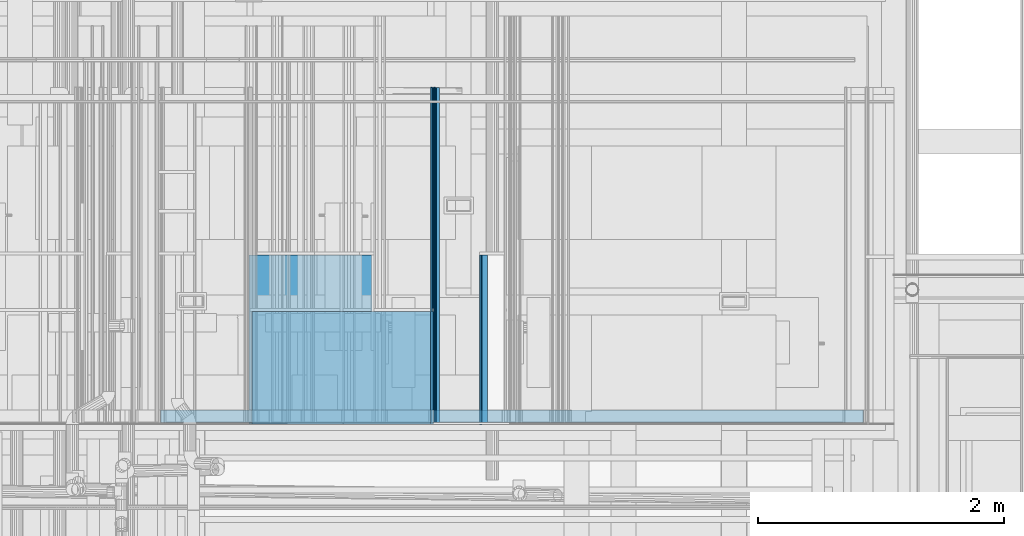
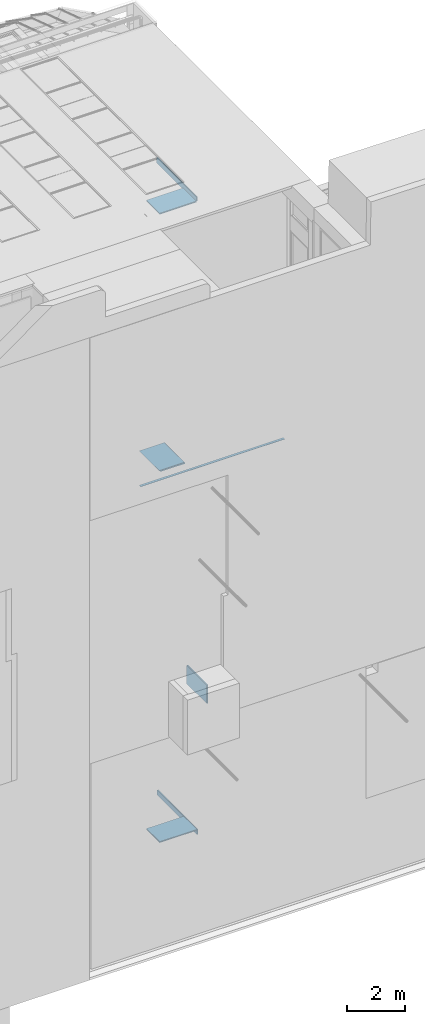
# One storey, part 51 of 583: 13 building element parts, 7 elements without a shape of their own.
"""IFC2X3 building model written with IfcOpenShell, lengths in metres."""

from ifc_helpers import new_model, entity, si_unit, converted_unit, derived_unit, money_unit, direction, frame, frame_2d, origin_with_axes, place, context, subcontext, project, spatial, polyline, rectangle, outline, extrude, material, type_object, element, aggregate, save


model = new_model("IFC2X3")

# Units and contexts
model_context = context("Model", 3, precision=1e-05, world=origin_with_axes(), true_north=direction((0.0, 1.0)))
body_context = subcontext(model_context, "Body", "Model", "MODEL_VIEW", scale=1.0)
ifc_project = project(units=[si_unit("LENGTHUNIT", "METRE"), si_unit("AREAUNIT", "SQUARE_METRE"), si_unit("VOLUMEUNIT", "CUBIC_METRE"), si_unit("ABSORBEDDOSEUNIT", "GRAY"), si_unit("AMOUNTOFSUBSTANCEUNIT", "MOLE"), si_unit("DOSEEQUIVALENTUNIT", "SIEVERT"), si_unit("ELECTRICCAPACITANCEUNIT", "FARAD"), si_unit("ELECTRICCHARGEUNIT", "COULOMB"), si_unit("ELECTRICCONDUCTANCEUNIT", "SIEMENS"), si_unit("ELECTRICCURRENTUNIT", "AMPERE"), si_unit("ELECTRICRESISTANCEUNIT", "OHM"), si_unit("ELECTRICVOLTAGEUNIT", "VOLT"), si_unit("ENERGYUNIT", "JOULE"), si_unit("FORCEUNIT", "NEWTON"), si_unit("FREQUENCYUNIT", "HERTZ"), si_unit("ILLUMINANCEUNIT", "LUX"), si_unit("INDUCTANCEUNIT", "HENRY"), si_unit("LUMINOUSFLUXUNIT", "LUMEN"), si_unit("LUMINOUSINTENSITYUNIT", "CANDELA"), si_unit("MAGNETICFLUXDENSITYUNIT", "TESLA"), si_unit("MAGNETICFLUXUNIT", "WEBER"), si_unit("MASSUNIT", "GRAM"), converted_unit("PLANEANGLEUNIT", "degree", entity("IfcReal", 0.0174532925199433), si_unit("PLANEANGLEUNIT", "RADIAN"), dimensions=[0, 0, 0, 0, 0, 0, 0]), si_unit("POWERUNIT", "WATT"), si_unit("PRESSUREUNIT", "PASCAL"), si_unit("RADIOACTIVITYUNIT", "BECQUEREL"), si_unit("SOLIDANGLEUNIT", "STERADIAN"), si_unit("THERMODYNAMICTEMPERATUREUNIT", "KELVIN"), si_unit("TIMEUNIT", "SECOND"), derived_unit("ACCELERATIONUNIT", [(si_unit("LENGTHUNIT", "METRE"), 1), (si_unit("TIMEUNIT", "SECOND"), -2)]), derived_unit("ANGULARVELOCITYUNIT", [(converted_unit("PLANEANGLEUNIT", "degree", entity("IfcReal", 0.0174532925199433), si_unit("PLANEANGLEUNIT", "RADIAN"), dimensions=[0, 0, 0, 0, 0, 0, 0]), 1), (si_unit("TIMEUNIT", "SECOND"), -1)]), derived_unit("CURVATUREUNIT", [(converted_unit("PLANEANGLEUNIT", "degree", entity("IfcReal", 0.0174532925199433), si_unit("PLANEANGLEUNIT", "RADIAN"), dimensions=[0, 0, 0, 0, 0, 0, 0]), 1), (si_unit("LENGTHUNIT", "METRE"), -1)]), derived_unit("DYNAMICVISCOSITYUNIT", [(si_unit("PRESSUREUNIT", "PASCAL"), 1), (si_unit("TIMEUNIT", "SECOND"), 1)]), derived_unit("HEATFLUXDENSITYUNIT", [(si_unit("POWERUNIT", "WATT"), 1), (si_unit("LENGTHUNIT", "METRE"), -2)]), derived_unit("HEATINGVALUEUNIT", [(si_unit("ENERGYUNIT", "JOULE"), 1), (si_unit("MASSUNIT", "GRAM"), -1)]), derived_unit("INTEGERCOUNTRATEUNIT", [(si_unit("TIMEUNIT", "SECOND"), -1)]), derived_unit("IONCONCENTRATIONUNIT", [(si_unit("MASSUNIT", "GRAM"), 1), (si_unit("VOLUMEUNIT", "CUBIC_METRE"), -1)]), derived_unit("ISOTHERMALMOISTURECAPACITYUNIT", [(si_unit("VOLUMEUNIT", "CUBIC_METRE"), 1), (si_unit("MASSUNIT", "GRAM"), -1)]), derived_unit("KINEMATICVISCOSITYUNIT", [(si_unit("AREAUNIT", "SQUARE_METRE"), 1), (si_unit("TIMEUNIT", "SECOND"), -1)]), derived_unit("LINEARFORCEUNIT", [(si_unit("FORCEUNIT", "NEWTON"), 1), (si_unit("LENGTHUNIT", "METRE"), -1)]), derived_unit("LINEARMOMENTUNIT", [(si_unit("FORCEUNIT", "NEWTON"), 1), (si_unit("LENGTHUNIT", "METRE"), -1)]), derived_unit("LINEARSTIFFNESSUNIT", [(si_unit("FORCEUNIT", "NEWTON"), 1), (si_unit("LENGTHUNIT", "METRE"), -1)]), derived_unit("LINEARVELOCITYUNIT", [(si_unit("LENGTHUNIT", "METRE"), 1), (si_unit("TIMEUNIT", "SECOND"), -1)]), derived_unit("LUMINOUSINTENSITYDISTRIBUTIONUNIT", [(si_unit("LUMINOUSINTENSITYUNIT", "CANDELA"), 1), (si_unit("LUMINOUSFLUXUNIT", "LUMEN"), -1)]), derived_unit("MASSDENSITYUNIT", [(si_unit("MASSUNIT", "GRAM"), 1), (si_unit("VOLUMEUNIT", "CUBIC_METRE"), -1)]), derived_unit("MASSFLOWRATEUNIT", [(si_unit("MASSUNIT", "GRAM"), 1), (si_unit("TIMEUNIT", "SECOND"), -1)]), derived_unit("MASSPERLENGTHUNIT", [(si_unit("MASSUNIT", "GRAM"), 1), (si_unit("LENGTHUNIT", "METRE"), -1)]), derived_unit("MODULUSOFELASTICITYUNIT", [(si_unit("FORCEUNIT", "NEWTON"), 1), (si_unit("AREAUNIT", "SQUARE_METRE"), -1)]), derived_unit("MODULUSOFLINEARSUBGRADEREACTIONUNIT", [(si_unit("FORCEUNIT", "NEWTON"), 1), (si_unit("LENGTHUNIT", "METRE"), -2)]), derived_unit("MODULUSOFROTATIONALSUBGRADEREACTIONUNIT", [(si_unit("FORCEUNIT", "NEWTON"), 1), (si_unit("LENGTHUNIT", "METRE"), 1)]), derived_unit("MODULUSOFSUBGRADEREACTIONUNIT", [(si_unit("FORCEUNIT", "NEWTON"), 1), (si_unit("VOLUMEUNIT", "CUBIC_METRE"), -1)]), derived_unit("MOISTUREDIFFUSIVITYUNIT", [(si_unit("VOLUMEUNIT", "CUBIC_METRE"), 1), (si_unit("TIMEUNIT", "SECOND"), -1)]), derived_unit("MOLECULARWEIGHTUNIT", [(si_unit("MASSUNIT", "GRAM"), 1), (si_unit("AMOUNTOFSUBSTANCEUNIT", "MOLE"), -1)]), derived_unit("PLANARFORCEUNIT", [(si_unit("FORCEUNIT", "NEWTON"), 1), (si_unit("LENGTHUNIT", "METRE"), -2)]), derived_unit("ROTATIONALFREQUENCYUNIT", [(si_unit("TIMEUNIT", "SECOND"), -1)]), derived_unit("ROTATIONALMASSUNIT", [(si_unit("MASSUNIT", "GRAM"), 1), (si_unit("LENGTHUNIT", "METRE"), 2)]), derived_unit("ROTATIONALSTIFFNESSUNIT", [(si_unit("FORCEUNIT", "NEWTON"), 1), (si_unit("LENGTHUNIT", "METRE"), 1), (converted_unit("PLANEANGLEUNIT", "degree", entity("IfcReal", 0.0174532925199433), si_unit("PLANEANGLEUNIT", "RADIAN"), dimensions=[0, 0, 0, 0, 0, 0, 0]), -1)]), derived_unit("SECTIONAREAINTEGRALUNIT", [(si_unit("LENGTHUNIT", "METRE"), 5)]), derived_unit("SECTIONMODULUSUNIT", [(si_unit("LENGTHUNIT", "METRE"), 3)]), derived_unit("SHEARMODULUSUNIT", [(si_unit("FORCEUNIT", "NEWTON"), 1), (si_unit("AREAUNIT", "SQUARE_METRE"), -1)]), derived_unit("SOUNDPOWERUNIT", [(si_unit("ENERGYUNIT", "JOULE"), 1), (si_unit("TIMEUNIT", "SECOND"), -1)]), derived_unit("SPECIFICHEATCAPACITYUNIT", [(si_unit("FORCEUNIT", "NEWTON"), 1), (si_unit("MASSUNIT", "GRAM"), -1), (si_unit("THERMODYNAMICTEMPERATUREUNIT", "KELVIN"), -1)]), derived_unit("TEMPERATUREGRADIENTUNIT", [(si_unit("THERMODYNAMICTEMPERATUREUNIT", "KELVIN"), 1), (si_unit("LENGTHUNIT", "METRE"), -1)]), derived_unit("THERMALADMITTANCEUNIT", [(si_unit("POWERUNIT", "WATT"), 1), (si_unit("AREAUNIT", "SQUARE_METRE"), -1), (si_unit("THERMODYNAMICTEMPERATUREUNIT", "KELVIN"), -1)]), derived_unit("THERMALCONDUCTANCEUNIT", [(si_unit("POWERUNIT", "WATT"), 1), (si_unit("LENGTHUNIT", "METRE"), -1), (si_unit("THERMODYNAMICTEMPERATUREUNIT", "KELVIN"), -1)]), derived_unit("THERMALEXPANSIONCOEFFICIENTUNIT", [(si_unit("THERMODYNAMICTEMPERATUREUNIT", "KELVIN"), -1)]), derived_unit("THERMALRESISTANCEUNIT", [(si_unit("AREAUNIT", "SQUARE_METRE"), 1), (si_unit("POWERUNIT", "WATT"), -1)]), derived_unit("THERMALTRANSMITTANCEUNIT", [(si_unit("POWERUNIT", "WATT"), 1), (si_unit("AREAUNIT", "SQUARE_METRE"), -1), (si_unit("THERMODYNAMICTEMPERATUREUNIT", "KELVIN"), -1)]), derived_unit("TORQUEUNIT", [(si_unit("FORCEUNIT", "NEWTON"), 1), (si_unit("LENGTHUNIT", "METRE"), 1)]), derived_unit("VAPORPERMEABILITYUNIT", [(si_unit("MASSUNIT", "GRAM"), 1), (si_unit("TIMEUNIT", "SECOND"), -1)]), derived_unit("VOLUMETRICFLOWRATEUNIT", [(si_unit("VOLUMEUNIT", "CUBIC_METRE"), 1), (si_unit("TIMEUNIT", "SECOND"), -1)]), derived_unit("WARPINGCONSTANTUNIT", [(si_unit("LENGTHUNIT", "METRE"), 6)]), derived_unit("WARPINGMOMENTUNIT", [(si_unit("FORCEUNIT", "NEWTON"), 1), (si_unit("LENGTHUNIT", "METRE"), 2)]), money_unit("GBP")], contexts=[model_context])

# Site, building, storey
site_placement = place(None, origin_with_axes())
site = spatial("IfcSite", under=ifc_project, at=site_placement, Name="Site", CompositionType="ELEMENT")
building_placement = place(site_placement, origin_with_axes())
building = spatial("IfcBuilding", under=site, at=building_placement, Name="Building01", CompositionType="ELEMENT")
storey_placement = place(building_placement, frame((0.0, 0.0, 20.78), z_axis=(0.0, 0.0, 1.0), x_axis=(1.0, 0.0, 0.0)))
storey = spatial("IfcBuildingStorey", under=building, at=storey_placement, Name="RL", CompositionType="ELEMENT", Elevation=20.78)

# Wall, building element parts
wall_type_1 = type_object("IfcWallType", Name="SHE_A-Walls_Type05c_PreWallShell_65mm", PredefinedType="NOTDEFINED")
wall_1_placement = place(storey_placement, frame((9.605, 5.15, -4.936868), z_axis=(0.0, 1.0, 0.0), x_axis=(1.0, 0.0, 0.0)))
wall_1 = element("IfcWall", 1, at=wall_1_placement, inside=storey, type_object=wall_type_1, Name="5C", ObjectType="SHE_A-Walls_Type05c_PreWallShell_65mm")
ifc_material_1 = material(Name="A_BSUK_OpeningsClearance")
placement_1 = place(wall_1_placement, origin_with_axes())
building_element_part_1 = element("IfcBuildingElementPart", 2, at=placement_1, material=ifc_material_1, Name="1", context=body_context, shape_type="SweptSolid", body=[
    extrude(rectangle(XDim=0.965, YDim=0.05, at=frame_2d((0.4825, -0.025), x_axis=(-1.0, 0.0))), origin_with_axes(), (0.0, 0.0, 1.0), 1.375),
])
ifc_material_2 = material(Name="A_BSUK_Walls_Timber")
building_element_part_2 = element("IfcBuildingElementPart", 3, at=placement_1, material=ifc_material_2, Name="2", context=body_context, shape_type="SweptSolid", body=[
    extrude(rectangle(XDim=1.0, YDim=0.015, at=frame_2d((0.45, -0.0575), x_axis=(-1.0, 0.0))), origin_with_axes(), (0.0, 0.0, 1.0), 1.375),
])
aggregate(wall_1, [building_element_part_1, building_element_part_2])

wall_2_placement = place(storey_placement, frame((11.495672, 5.15, -15.315331), z_axis=(0.0, 1.0, 0.0), x_axis=(0.0, 0.0, 1.0)))
wall_2 = element("IfcWall", 4, at=wall_2_placement, inside=storey, type_object=wall_type_1, Name="5C", ObjectType="SHE_A-Walls_Type05c_PreWallShell_65mm")
placement_2 = place(wall_2_placement, origin_with_axes())
building_element_part_3 = element("IfcBuildingElementPart", 5, at=placement_2, material=ifc_material_1, Name="1", context=body_context, shape_type="SweptSolid", body=[
    extrude(rectangle(XDim=0.775, YDim=0.05, at=frame_2d((0.3875, -0.025), x_axis=(-1.0, 0.0))), origin_with_axes(), (0.0, 0.0, 1.0), 1.375),
])
building_element_part_4 = element("IfcBuildingElementPart", 6, at=placement_2, material=ifc_material_2, Name="2", context=body_context, shape_type="SweptSolid", body=[
    extrude(rectangle(XDim=0.76, YDim=0.015, at=frame_2d((0.395, -0.0575), x_axis=(-1.0, 0.0))), origin_with_axes(), (0.0, 0.0, 1.0), 1.375),
])
aggregate(wall_2, [building_element_part_3, building_element_part_4])

# Wall, building element part
wall_type_2 = type_object("IfcWallType", Name="SHE_A-Walls_Type01c_Partywall_225mm_twin_tall", PredefinedType="NOTDEFINED")
wall_3_placement = place(storey_placement, frame((8.82, 5.15, -5.159868), z_axis=(0.0, 1.0, 0.0), x_axis=(1.0, 0.0, 0.0)))
wall_3 = element("IfcWall", 7, at=wall_3_placement, inside=storey, type_object=wall_type_2, Name="1C", ObjectType="SHE_A-Walls_Type01c_Partywall_225mm_twin_tall")
building_element_part_5_placement = place(wall_3_placement, origin_with_axes())
building_element_part_5 = element("IfcBuildingElementPart", 8, at=building_element_part_5_placement, material=ifc_material_2, Name="2", context=body_context, shape_type="SweptSolid", body=[
    extrude(rectangle(XDim=5.717, YDim=0.015, at=frame_2d((2.8735, 0.1445), x_axis=(-1.0, 0.0))), frame((0.0, 0.0, 0.015), z_axis=(0.0, 0.0, 1.0), x_axis=(1.0, 0.0, 0.0)), (0.0, 0.0, 1.0), 0.1),
])
aggregate(wall_3, [building_element_part_5])

# Wall, building element parts
wall_type_3 = type_object("IfcWallType", Name="SHE_A-Walls_Type06d_ExternalWallInsulation_48mm", PredefinedType="NOTDEFINED")
wall_4_placement = place(storey_placement, frame((11.03218, 5.15, 5.894), z_axis=(0.0, 1.0, 0.0), x_axis=(-1.0, 0.0, 0.0)))
wall_4 = element("IfcWall", 9, at=wall_4_placement, inside=storey, type_object=wall_type_3, Name="6D", ObjectType="SHE_A-Walls_Type06d_ExternalWallInsulation_48mm")
ifc_material_3 = material(Name="A_BSUK_Insulation")
placement_3 = place(wall_4_placement, origin_with_axes())
building_element_part_6 = element("IfcBuildingElementPart", 10, at=placement_3, material=ifc_material_3, Name="1", context=body_context, shape_type="SweptSolid", body=[
    extrude(rectangle(XDim=1.455, YDim=0.036, at=frame_2d((0.7275, 0.018), x_axis=(-1.0, 0.0))), origin_with_axes(), (0.0, 0.0, 1.0), 0.915),
])
ifc_material_4 = material(Name="A_BSUK_WallInternal_Finishes_Plasterboard")
building_element_part_7 = element("IfcBuildingElementPart", 11, at=placement_3, material=ifc_material_4, Name="3", context=body_context, shape_type="SweptSolid", body=[
    extrude(rectangle(XDim=1.455, YDim=0.013, at=frame_2d((0.7275, -0.0055), x_axis=(-1.0, 0.0))), origin_with_axes(), (0.0, 0.0, 1.0), 0.915),
])
aggregate(wall_4, [building_element_part_6, building_element_part_7])

wall_5_placement = place(storey_placement, frame((11.08018, 5.15, 5.93), z_axis=(0.0, 1.0, 0.0), x_axis=(0.0, 0.0, 1.0)))
wall_5 = element("IfcWall", 12, at=wall_5_placement, inside=storey, type_object=wall_type_3, Name="6D", ObjectType="SHE_A-Walls_Type06d_ExternalWallInsulation_48mm")
placement_4 = place(wall_5_placement, origin_with_axes())
building_element_part_8 = element("IfcBuildingElementPart", 13, at=placement_4, material=ifc_material_3, Name="1", context=body_context, shape_type="SweptSolid", body=[
    extrude(rectangle(XDim=0.036, YDim=0.17, at=frame_2d((0.085, -0.018), x_axis=(0.0, -1.0))), origin_with_axes(), (0.0, 0.0, 1.0), 2.74),
])
building_element_part_9 = element("IfcBuildingElementPart", 14, at=placement_4, material=ifc_material_4, Name="3", context=body_context, shape_type="SweptSolid", body=[
    extrude(outline(polyline([(-0.035, -0.035), (-0.048, -0.048), (0.17, -0.048), (0.17, -0.035), (-0.035, -0.035)])), origin_with_axes(), (0.0, 0.0, 1.0), 2.74),
])
aggregate(wall_5, [building_element_part_8, building_element_part_9])

wall_6_placement = place(storey_placement, frame((11.103, 5.15, -20.474), z_axis=(0.0, 1.0, 0.0), x_axis=(0.0, 0.0, -1.0)))
wall_6 = element("IfcWall", 15, at=wall_6_placement, inside=storey, type_object=wall_type_3, Name="6D", ObjectType="SHE_A-Walls_Type06d_ExternalWallInsulation_48mm")
placement_5 = place(wall_6_placement, origin_with_axes())
building_element_part_10 = element("IfcBuildingElementPart", 16, at=placement_5, material=ifc_material_3, Name="1", context=body_context, shape_type="SweptSolid", body=[
    extrude(rectangle(XDim=0.036, YDim=0.206, at=frame_2d((0.103, 0.018), x_axis=(0.0, -1.0))), origin_with_axes(), (0.0, 0.0, 1.0), 2.74),
])
building_element_part_11 = element("IfcBuildingElementPart", 17, at=placement_5, material=ifc_material_4, Name="3", context=body_context, shape_type="SweptSolid", body=[
    extrude(outline(polyline([(-0.012, 0.048), (0.001, 0.035), (0.206, 0.035), (0.206, 0.048), (-0.012, 0.048)])), origin_with_axes(), (0.0, 0.0, 1.0), 2.74),
])
aggregate(wall_6, [building_element_part_10, building_element_part_11])

wall_7_placement = place(storey_placement, frame((11.055, 5.15, -20.474), z_axis=(0.0, 1.0, 0.0), x_axis=(-1.0, 0.0, 0.0)))
wall_7 = element("IfcWall", 18, at=wall_7_placement, inside=storey, type_object=wall_type_3, Name="6D", ObjectType="SHE_A-Walls_Type06d_ExternalWallInsulation_48mm")
placement_6 = place(wall_7_placement, origin_with_axes())
building_element_part_12 = element("IfcBuildingElementPart", 19, at=placement_6, material=ifc_material_3, Name="1", context=body_context, shape_type="SweptSolid", body=[
    extrude(rectangle(XDim=1.47782, YDim=0.036, at=frame_2d((0.73891, -0.018), x_axis=(-1.0, 0.0))), origin_with_axes(), (0.0, 0.0, 1.0), 0.915),
])
building_element_part_13 = element("IfcBuildingElementPart", 20, at=placement_6, material=ifc_material_4, Name="3", context=body_context, shape_type="SweptSolid", body=[
    extrude(rectangle(XDim=1.47782, YDim=0.013, at=frame_2d((0.73891, 0.0055), x_axis=(-1.0, 0.0))), origin_with_axes(), (0.0, 0.0, 1.0), 0.915),
])
aggregate(wall_7, [building_element_part_12, building_element_part_13])

save(model, "model.ifc")
